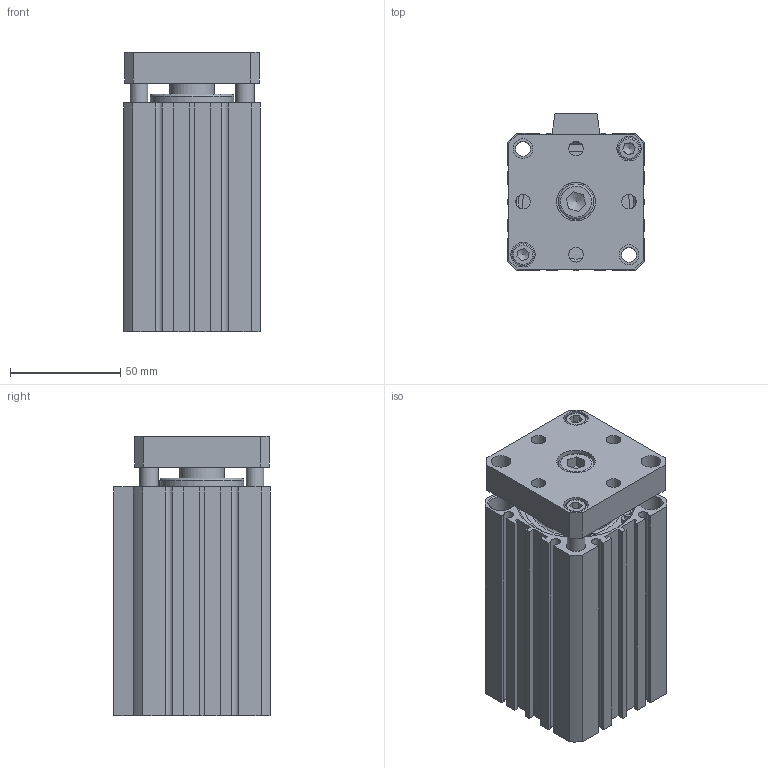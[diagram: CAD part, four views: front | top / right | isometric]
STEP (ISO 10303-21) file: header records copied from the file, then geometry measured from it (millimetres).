
FILE_DESCRIPTION((''),'2;1');
FILE_NAME('I:\3D電子目錄\氣缸\JTD\JTD\JTD50\JTD50x75.stp','2007-08-14T19:28:24',('Administrator'),(''),'Autodesk Inventor 11','Autodesk Inventor 11','');
FILE_SCHEMA(('AUTOMOTIVE_DESIGN { 1 0 10303 214 1 1 1 1 }'));
Length unit declared in the file: millimetre
Products named in the file (5): JTD50; R 形環 52; ISO 4762 M10 x 16; ISO 4762 M6 x 20
Assembly tree (6 placements, depth 2):
  JTD50
    JTD50
    R 形環 52  x2
    ISO 4762 M10 x 16
    ISO 4762 M6 x 20  x2
Bounding box: 62 x 71 x 126.6 mm (x, y, z)
Volume: 404880.1 mm3; surface area: 82676.6 mm2
Topology: 6 solids, 6 shells, 228 faces, 548 edges, 360 vertices
Faces by surface type: plane 135, cylinder 58, bspline 16, cone 14, torus 5
Full cylindrical faces by diameter (mm): 2.3 x4, 2.7 x2, 6 x2, 6.8 x2, 8 x2, 8.5 x3, 9 x2, 10 x3, 11 x4, 16 x1, 20 x1, 37 x1, 38 x1, 52 x4, 55 x2
Entity records: 5925 total; most frequent: CARTESIAN_POINT 1242, DIRECTION 938, ORIENTED_EDGE 844, EDGE_CURVE 422, AXIS2_PLACEMENT_3D 331, EDGE_LOOP 314, VERTEX_POINT 313, VECTOR 276
